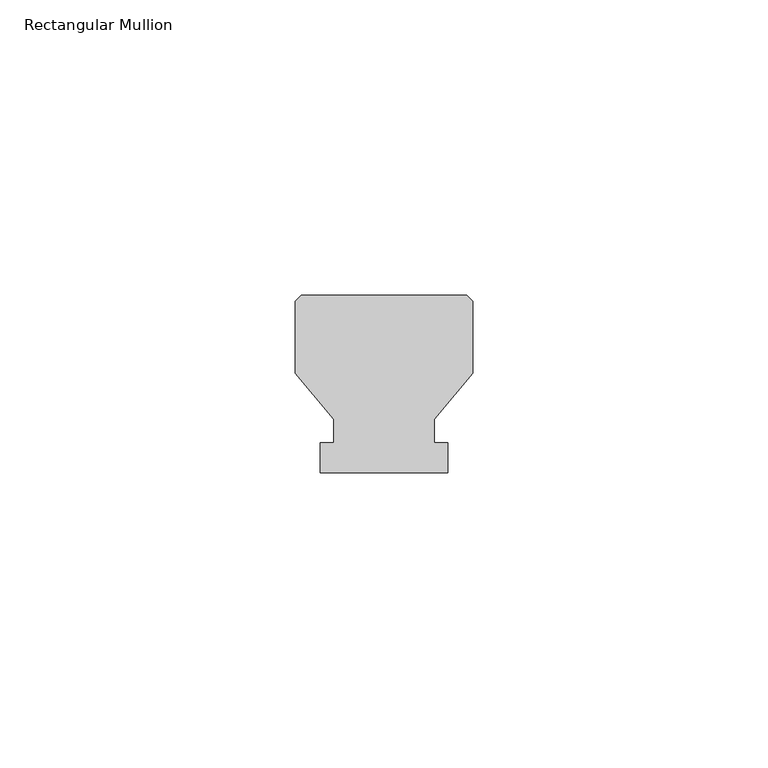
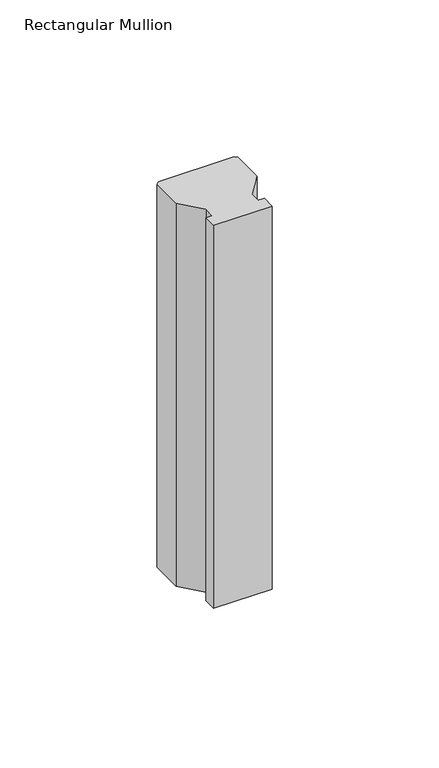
"""IFC4 building model written with IfcOpenShell, lengths in millimetres: member geometry, Rectangular Mullion : Batten_Timber_Modinex_Austratus_Grid_Fin_30x30_AlaskanYellowCedar."""

from ifc_helpers import new_model, si_unit, frame, origin, place, context, project, spatial, polyline, outline, extrude, source, transform, mapped, element, save


def rectangular_mullion_f16743ad(model_context):
    return source(origin(), model_context, "Body", "SweptSolid", [
        extrude(outline(polyline([(0.0, 16.8079815), (-6.5, 9.0), (-6.5, 5.0), (-4.187805, 5.0), (-4.187805, 0.0), (-25.812195, 0.0), (-25.812195, 5.0), (-23.5, 5.0), (-23.5, 9.0), (-30.0, 16.8079815), (-30.0, 29.0), (-29.0, 30.0), (-1.0, 30.0), (0.0, 29.0), (0.0, 16.8079815)])), frame((0.0, 0.0, -150.0), z_axis=(0.0, 0.0, 1.0), x_axis=(1.0, 0.0, 0.0)), (0.0, 0.0, 1.0), 150.0),
    ])


if __name__ == "__main__":
    model = new_model("IFC4")
    model_context = context("Model", 3, world=origin())
    ifc_project = project(units=[si_unit("LENGTHUNIT", "METRE", prefix="MILLI")], contexts=[model_context])
    site = spatial("IfcSite", under=ifc_project)
    building = spatial("IfcBuilding", under=site)
    placement = place(None, origin())
    rectangular_mullion_shape = rectangular_mullion_f16743ad(model_context)
    element("IfcMember", 1, ObjectType="Rectangular Mullion : Batten_Timber_Modinex_Austratus_Grid_Fin_30x30_AlaskanYellowCedar", at=placement, inside=building, context=model_context, shape_type="MappedRepresentation", body=[
        mapped(rectangular_mullion_shape, transform((0.0, 0.0, 0.0), x_axis=(1.0, 0.0, 0.0), y_axis=(0.0, 1.0, 0.0), z_axis=(0.0, 0.0, 1.0))),
    ])
    save(model, "model.ifc")
